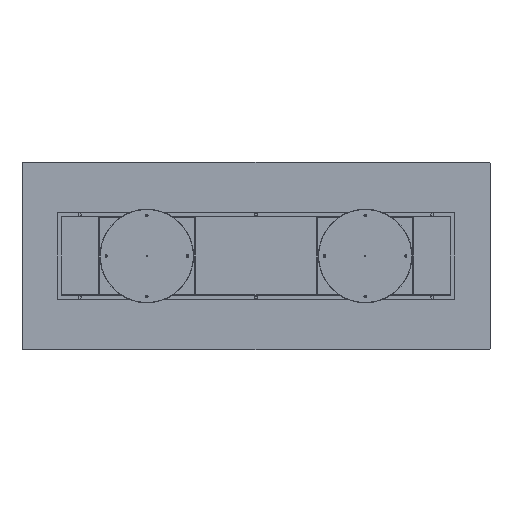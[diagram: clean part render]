
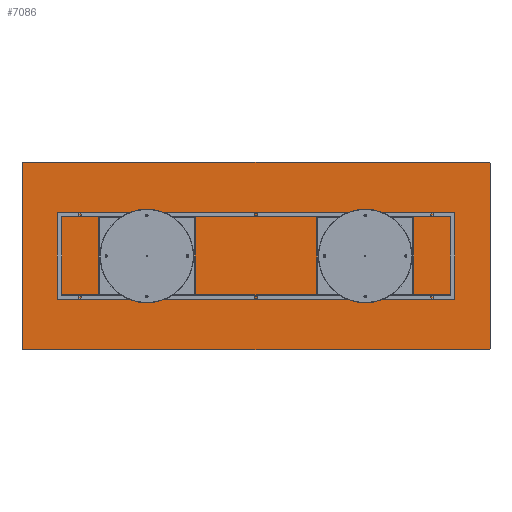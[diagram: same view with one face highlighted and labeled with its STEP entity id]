
A CAD part, front view. The second image highlights one B-rep face of the part: STEP entity #7086.
In plain terms, the highlighted planar face has unit normal (0, -1, 0).
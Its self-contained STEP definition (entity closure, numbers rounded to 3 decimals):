
#186 = LINE ( 'NONE', #3815, #353 ) ;
#353 = VECTOR ( 'NONE', #11169, 1000. ) ;
#388 = CARTESIAN_POINT ( 'NONE',  ( 1495., 0., -600. ) ) ;
#513 = DIRECTION ( 'NONE',  ( 0., -1., 0. ) ) ;
#532 = CIRCLE ( 'NONE', #4277, 5. ) ;
#544 = VECTOR ( 'NONE', #7304, 1000. ) ;
#753 = CIRCLE ( 'NONE', #957, 5. ) ;
#799 = ORIENTED_EDGE ( 'NONE', *, *, #10519, .F. ) ;
#887 = EDGE_LOOP ( 'NONE', ( #6937, #1496, #10047, #9476, #799, #9570, #7016, #2272 ) ) ;
#916 = CARTESIAN_POINT ( 'NONE',  ( 1495., 0., 600. ) ) ;
#957 = AXIS2_PLACEMENT_3D ( 'NONE', #6124, #513, #2548 ) ;
#1350 = EDGE_CURVE ( 'NONE', #5594, #8746, #532, .T. ) ;
#1496 = ORIENTED_EDGE ( 'NONE', *, *, #11051, .T. ) ;
#1604 = EDGE_CURVE ( 'NONE', #5594, #2386, #2232, .T. ) ;
#1694 = LINE ( 'NONE', #5455, #544 ) ;
#2069 = CIRCLE ( 'NONE', #8328, 5. ) ;
#2232 = LINE ( 'NONE', #10814, #9144 ) ;
#2254 = CARTESIAN_POINT ( 'NONE',  ( 1500., 0., -595. ) ) ;
#2272 = ORIENTED_EDGE ( 'NONE', *, *, #5364, .T. ) ;
#2386 = VERTEX_POINT ( 'NONE', #916 ) ;
#2548 = DIRECTION ( 'NONE',  ( 0., 0., 1. ) ) ;
#3166 = DIRECTION ( 'NONE',  ( 0., 0., 1. ) ) ;
#3479 = DIRECTION ( 'NONE',  ( 0., 0., 1. ) ) ;
#3512 = CIRCLE ( 'NONE', #7431, 5. ) ;
#3569 = CARTESIAN_POINT ( 'NONE',  ( -1500., 0., 595. ) ) ;
#3613 = CARTESIAN_POINT ( 'NONE',  ( -1500., 0., -595. ) ) ;
#3815 = CARTESIAN_POINT ( 'NONE',  ( -1500., 0., -600. ) ) ;
#4277 = AXIS2_PLACEMENT_3D ( 'NONE', #10224, #4529, #3479 ) ;
#4354 = DIRECTION ( 'NONE',  ( 0., 0., -1. ) ) ;
#4380 = CARTESIAN_POINT ( 'NONE',  ( 0., 0., 0. ) ) ;
#4529 = DIRECTION ( 'NONE',  ( 0., -1., 0. ) ) ;
#5198 = CARTESIAN_POINT ( 'NONE',  ( 1500., 0., -600. ) ) ;
#5364 = EDGE_CURVE ( 'NONE', #6474, #10351, #2069, .T. ) ;
#5455 = CARTESIAN_POINT ( 'NONE',  ( -1500., 0., -600. ) ) ;
#5594 = VERTEX_POINT ( 'NONE', #8042 ) ;
#6094 = PLANE ( 'NONE',  #8343 ) ;
#6124 = CARTESIAN_POINT ( 'NONE',  ( 1495., 0., 595. ) ) ;
#6474 = VERTEX_POINT ( 'NONE', #388 ) ;
#6937 = ORIENTED_EDGE ( 'NONE', *, *, #7916, .F. ) ;
#7016 = ORIENTED_EDGE ( 'NONE', *, *, #10243, .F. ) ;
#7086 = ADVANCED_FACE ( 'NONE', ( #9013 ), #6094, .F. ) ;
#7304 = DIRECTION ( 'NONE',  ( 0., 0., 1. ) ) ;
#7431 = AXIS2_PLACEMENT_3D ( 'NONE', #11623, #8672, #3166 ) ;
#7906 = CARTESIAN_POINT ( 'NONE',  ( 1500., 0., 595. ) ) ;
#7916 = EDGE_CURVE ( 'NONE', #9014, #10351, #11763, .T. ) ;
#8042 = CARTESIAN_POINT ( 'NONE',  ( -1495., 0., 600. ) ) ;
#8100 = DIRECTION ( 'NONE',  ( 0., 1., 0. ) ) ;
#8328 = AXIS2_PLACEMENT_3D ( 'NONE', #9265, #11055, #10388 ) ;
#8343 = AXIS2_PLACEMENT_3D ( 'NONE', #4380, #8100, #9819 ) ;
#8672 = DIRECTION ( 'NONE',  ( 0., -1., 0. ) ) ;
#8673 = DIRECTION ( 'NONE',  ( 1., 0., 0. ) ) ;
#8746 = VERTEX_POINT ( 'NONE', #3569 ) ;
#9013 = FACE_OUTER_BOUND ( 'NONE', #887, .T. ) ;
#9014 = VERTEX_POINT ( 'NONE', #7906 ) ;
#9144 = VECTOR ( 'NONE', #8673, 1000. ) ;
#9265 = CARTESIAN_POINT ( 'NONE',  ( 1495., 0., -595. ) ) ;
#9377 = VERTEX_POINT ( 'NONE', #3613 ) ;
#9476 = ORIENTED_EDGE ( 'NONE', *, *, #1350, .T. ) ;
#9570 = ORIENTED_EDGE ( 'NONE', *, *, #11321, .T. ) ;
#9819 = DIRECTION ( 'NONE',  ( 0., 0., 1. ) ) ;
#10047 = ORIENTED_EDGE ( 'NONE', *, *, #1604, .F. ) ;
#10224 = CARTESIAN_POINT ( 'NONE',  ( -1495., 0., 595. ) ) ;
#10243 = EDGE_CURVE ( 'NONE', #6474, #10914, #186, .T. ) ;
#10351 = VERTEX_POINT ( 'NONE', #2254 ) ;
#10388 = DIRECTION ( 'NONE',  ( 0., 0., 1. ) ) ;
#10519 = EDGE_CURVE ( 'NONE', #9377, #8746, #1694, .T. ) ;
#10814 = CARTESIAN_POINT ( 'NONE',  ( -1500., 0., 600. ) ) ;
#10914 = VERTEX_POINT ( 'NONE', #11581 ) ;
#11051 = EDGE_CURVE ( 'NONE', #9014, #2386, #753, .T. ) ;
#11055 = DIRECTION ( 'NONE',  ( 0., -1., 0. ) ) ;
#11169 = DIRECTION ( 'NONE',  ( -1., 0., 0. ) ) ;
#11321 = EDGE_CURVE ( 'NONE', #9377, #10914, #3512, .T. ) ;
#11581 = CARTESIAN_POINT ( 'NONE',  ( -1495., 0., -600. ) ) ;
#11623 = CARTESIAN_POINT ( 'NONE',  ( -1495., 0., -595. ) ) ;
#11763 = LINE ( 'NONE', #5198, #11896 ) ;
#11896 = VECTOR ( 'NONE', #4354, 1000. ) ;
